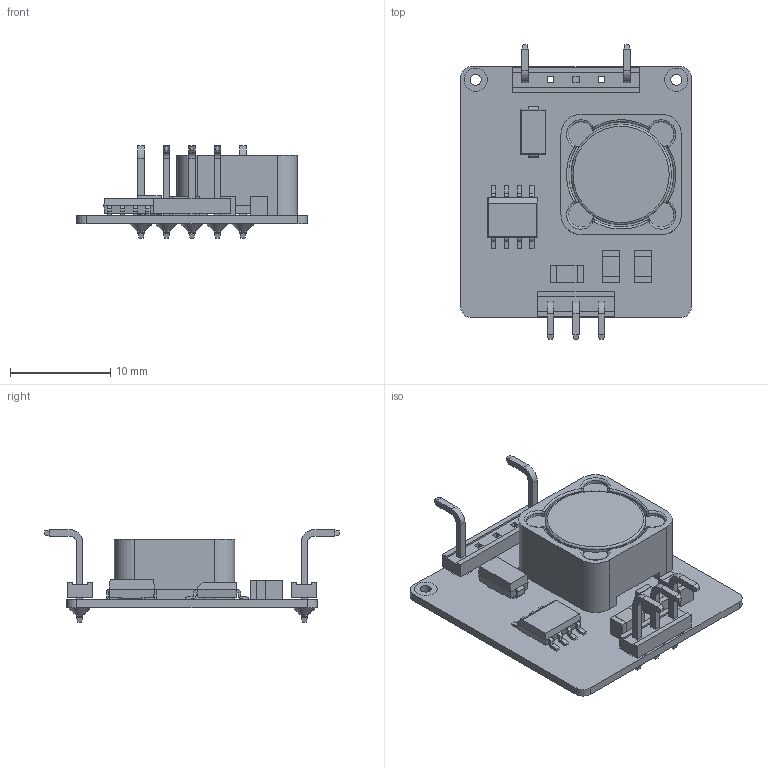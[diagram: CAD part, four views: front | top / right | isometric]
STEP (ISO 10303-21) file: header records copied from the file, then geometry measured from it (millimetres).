
FILE_DESCRIPTION(('FreeCAD Model'),'2;1');
FILE_NAME('X:/Application Engineering/1 Additional Information/1 CAD Files/1 Files up to date/1 Innoline/R-78T-1.0_FC_3D_20170601.STP', '2017-06-01T14:03:22',('Author'),(''), 'Open CASCADE STEP processor 6.8','FreeCAD','Unknown');
FILE_SCHEMA(('AUTOMOTIVE_DESIGN_CC2 { 1 2 10303 214 -1 1 5 4 }'));
Length unit declared in the file: millimetre
Products named in the file (31): R-78T-1.0_FC_pin3(+Vout); R-78T-1.0_FC_pin1(+Vin); R-78T-1.0_FC_ASM014; R-78T-1.0_FC_ASM016; R-78T-1.0_FC_ASM015; R-78T-1.0_FC_pin2(GND); R-78T-1.0_FC_ASM020; R-78T-1.0_FC_ASM022; R-78T-1.0_FC_ASM012; R-78T-1.0_FC_ASM013; R-78T-1.0_FC_ASM24; R-78T-1.0_FC_ASM023; R-78T-1.0_FC_ASM021; R-78T-1.0_FC_ASM019; R-78T-1.0_FC_ASM010; R-78T-1.0_FC_ASM018; R-78T-1.0_FC_ASM026; R-78T-1.0_FC_ASM027; R-78T-1.0_FC_ASM025; R-78T-1.0_FC_ASM011; R-78T-1.0_FC_ASM017; R-78T-1.0_FC_ASM001; R-78T-1.0_FC_PCB; R-78T-1.0_FC_ASM008; R-78T-1.0_FC_ASM002; R-78T-1.0_FC_ASM006; R-78T-1.0_FC_ASM005; R-78T-1.0_FC_ASM007; R-78T-1.0_FC_ASM004; R-78T-1.0_FC_ASM003; R-78T-1.0_FC_ASM009
Bounding box: 23 x 29.4 x 9.22 mm (x, y, z)
Volume: 1361.7 mm3; surface area: 2757.7 mm2
Topology: 31 solids, 31 shells, 458 faces, 1094 edges, 708 vertices
Faces by surface type: plane 339, cylinder 97, torus 9, sphere 8, cone 5
Full cylindrical faces by diameter (mm): 0.64 x5, 1 x7, 1.1 x2, 10 x1
Entity records: 39295 total; most frequent: CARTESIAN_POINT 16306, DIRECTION 3848, LINE 2305, VECTOR 2305, ORIENTED_EDGE 2188, PCURVE 2188, DEFINITIONAL_REPRESENTATION 2188, EDGE_CURVE 1094
